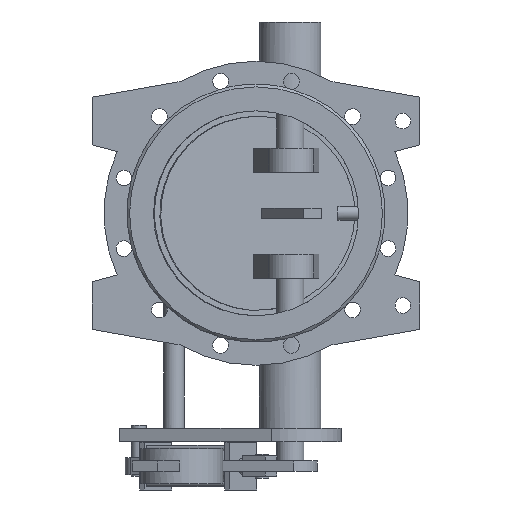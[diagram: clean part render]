
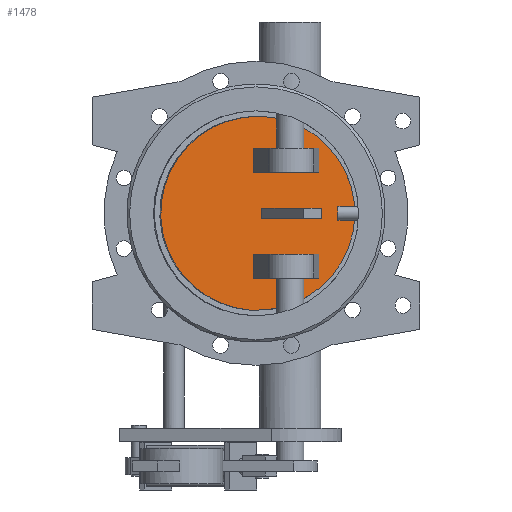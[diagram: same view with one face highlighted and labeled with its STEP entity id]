
A CAD part, front view. The second image highlights one B-rep face of the part: STEP entity #1478.
In plain terms, the highlighted planar face has unit normal (0.131, -0.991, 0).
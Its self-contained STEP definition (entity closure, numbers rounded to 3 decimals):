
#1478=ADVANCED_FACE('',(#3068,#3070,#3072,#3074),#3076,.T.);
#3068=FACE_BOUND('',#3069,.T.);
#3069=EDGE_LOOP('',(#4134));
#3070=FACE_BOUND('',#3071,.T.);
#3071=EDGE_LOOP('',(#4135,#4136,#4137,#4138));
#3072=FACE_BOUND('',#3073,.T.);
#3073=EDGE_LOOP('',(#4139,#4140,#4141,#4142));
#3074=FACE_BOUND('',#3075,.T.);
#3075=EDGE_LOOP('',(#4143,#4144,#4145,#4146));
#3076=PLANE('',#3077);
#3077=AXIS2_PLACEMENT_3D('',#3078,#3079,#3080);
#3078=CARTESIAN_POINT('',(-1.272,9.66,0.));
#3079=DIRECTION('',(0.131,-0.991,0.));
#3080=DIRECTION('',(0.,0.,-1.));
#4134=ORIENTED_EDGE('',*,*,#4619,.T.);
#4135=ORIENTED_EDGE('',*,*,#4621,.F.);
#4136=ORIENTED_EDGE('',*,*,#4622,.F.);
#4137=ORIENTED_EDGE('',*,*,#4623,.F.);
#4138=ORIENTED_EDGE('',*,*,#4624,.F.);
#4139=ORIENTED_EDGE('',*,*,#4625,.F.);
#4140=ORIENTED_EDGE('',*,*,#4626,.F.);
#4141=ORIENTED_EDGE('',*,*,#4627,.F.);
#4142=ORIENTED_EDGE('',*,*,#4628,.F.);
#4143=ORIENTED_EDGE('',*,*,#4629,.F.);
#4144=ORIENTED_EDGE('',*,*,#4630,.F.);
#4145=ORIENTED_EDGE('',*,*,#4631,.F.);
#4146=ORIENTED_EDGE('',*,*,#4632,.F.);
#4619=EDGE_CURVE('',#5372,#5372,#5373,.T.);
#4621=EDGE_CURVE('',#5376,#5377,#5378,.T.);
#4622=EDGE_CURVE('',#5379,#5376,#5380,.F.);
#4623=EDGE_CURVE('',#5381,#5379,#5382,.T.);
#4624=EDGE_CURVE('',#5377,#5381,#5383,.T.);
#4625=EDGE_CURVE('',#5384,#5385,#5386,.F.);
#4626=EDGE_CURVE('',#5387,#5384,#5388,.T.);
#4627=EDGE_CURVE('',#5389,#5387,#5390,.T.);
#4628=EDGE_CURVE('',#5385,#5389,#5391,.T.);
#4629=EDGE_CURVE('',#5392,#5393,#5394,.T.);
#4630=EDGE_CURVE('',#5395,#5392,#5396,.F.);
#4631=EDGE_CURVE('',#5397,#5395,#5398,.F.);
#4632=EDGE_CURVE('',#5393,#5397,#5399,.F.);
#5372=VERTEX_POINT('',#9906);
#5373=B_SPLINE_CURVE_WITH_KNOTS('',3,
(#9907,#9908,#9909,#9910,#9911,#9912,#9913,#9914,#9915,#9916,#9917,#9918,#9919,#9920,
#9921,#9922,#9923,#9924,#9925,#9926,#9927,#9928,#9929,#9930,#9931,#9932,#9933,#9934,
#9935,#9936,#9937,#9938,#9939,#9940,#9941,#9942,#9943,#9944,#9945,#9946,#9947,#9948,
#9949,#9950,#9951,#9952,#9953,#9954,#9955,#9956,#9957),
.UNSPECIFIED.,.T.,.F.,
(4,1,1,1,1,1,1,1,1,1,1,1,1,1,1,1,1,1,1,1,1,1,1,1,1,1,1,1,1,1,1,1,1,1,1,1,1,1,1,1,
1,1,1,1,1,1,1,1,4),
(0.,0.021,0.042,0.063,0.084,
0.105,0.126,0.147,0.168,0.189,
0.21,0.232,0.253,0.274,0.295,
0.316,0.337,0.358,0.379,0.4,
0.421,0.442,0.463,0.484,0.505,
0.526,0.548,0.569,0.59,0.611,
0.632,0.653,0.674,0.695,0.716,
0.737,0.758,0.779,0.8,0.822,
0.843,0.864,0.885,0.906,0.927,
0.948,0.969,0.986,1.),
.UNSPECIFIED.);
#5376=VERTEX_POINT('',#10010);
#5377=VERTEX_POINT('',#10011);
#5378=LINE('',#10012,#10013);
#5379=VERTEX_POINT('',#10015);
#5380=LINE('',#10016,#10017);
#5381=VERTEX_POINT('',#10019);
#5382=LINE('',#10020,#10021);
#5383=LINE('',#10023,#10024);
#5384=VERTEX_POINT('',#10026);
#5385=VERTEX_POINT('',#10027);
#5386=LINE('',#10028,#10029);
#5387=VERTEX_POINT('',#10031);
#5388=LINE('',#10032,#10033);
#5389=VERTEX_POINT('',#10035);
#5390=LINE('',#10036,#10037);
#5391=LINE('',#10039,#10040);
#5392=VERTEX_POINT('',#10042);
#5393=VERTEX_POINT('',#10043);
#5394=LINE('',#10044,#10045);
#5395=VERTEX_POINT('',#10047);
#5396=LINE('',#10048,#10049);
#5397=VERTEX_POINT('',#10051);
#5398=LINE('',#10052,#10053);
#5399=LINE('',#10055,#10056);
#9906=CARTESIAN_POINT('',(2.611,10.171,142.));
#9907=CARTESIAN_POINT('',(2.611,10.171,142.));
#9908=CARTESIAN_POINT('',(-3.625,9.35,142.));
#9909=CARTESIAN_POINT('',(-16.111,7.706,141.177));
#9910=CARTESIAN_POINT('',(-34.541,5.28,137.488));
#9911=CARTESIAN_POINT('',(-52.351,2.935,131.393));
#9912=CARTESIAN_POINT('',(-69.215,0.715,122.996));
#9913=CARTESIAN_POINT('',(-84.823,-1.34,112.449));
#9914=CARTESIAN_POINT('',(-98.906,-3.194,99.932));
#9915=CARTESIAN_POINT('',(-111.215,-4.814,85.665));
#9916=CARTESIAN_POINT('',(-121.534,-6.173,69.895));
#9917=CARTESIAN_POINT('',(-129.68,-7.245,52.898));
#9918=CARTESIAN_POINT('',(-135.511,-8.013,34.972));
#9919=CARTESIAN_POINT('',(-138.922,-8.462,16.433));
#9920=CARTESIAN_POINT('',(-139.854,-8.585,-2.395));
#9921=CARTESIAN_POINT('',(-138.29,-8.379,-21.179));
#9922=CARTESIAN_POINT('',(-134.258,-7.848,-39.59));
#9923=CARTESIAN_POINT('',(-127.83,-7.002,-57.305));
#9924=CARTESIAN_POINT('',(-119.12,-5.855,-74.014));
#9925=CARTESIAN_POINT('',(-108.282,-4.428,-89.424));
#9926=CARTESIAN_POINT('',(-95.507,-2.746,-103.267));
#9927=CARTESIAN_POINT('',(-81.02,-0.839,-115.303));
#9928=CARTESIAN_POINT('',(-65.072,1.261,-125.321));
#9929=CARTESIAN_POINT('',(-47.944,3.516,-133.149));
#9930=CARTESIAN_POINT('',(-29.933,5.887,-138.65));
#9931=CARTESIAN_POINT('',(-11.355,8.332,-141.729));
#9932=CARTESIAN_POINT('',(7.467,10.811,-142.332));
#9933=CARTESIAN_POINT('',(26.206,13.277,-140.448));
#9934=CARTESIAN_POINT('',(44.533,15.69,-136.111));
#9935=CARTESIAN_POINT('',(62.13,18.007,-129.394));
#9936=CARTESIAN_POINT('',(78.689,20.187,-120.414));
#9937=CARTESIAN_POINT('',(93.921,22.192,-109.327));
#9938=CARTESIAN_POINT('',(107.558,23.988,-96.326));
#9939=CARTESIAN_POINT('',(119.362,25.542,-81.636));
#9940=CARTESIAN_POINT('',(129.123,26.827,-65.514));
#9941=CARTESIAN_POINT('',(136.671,27.82,-48.243));
#9942=CARTESIAN_POINT('',(141.871,28.505,-30.124));
#9943=CARTESIAN_POINT('',(144.632,28.869,-11.477));
#9944=CARTESIAN_POINT('',(144.904,28.904,7.372));
#9945=CARTESIAN_POINT('',(142.684,28.612,26.09));
#9946=CARTESIAN_POINT('',(138.01,27.997,44.348));
#9947=CARTESIAN_POINT('',(130.967,27.07,61.827));
#9948=CARTESIAN_POINT('',(121.679,25.847,78.22));
#9949=CARTESIAN_POINT('',(110.31,24.35,93.241));
#9950=CARTESIAN_POINT('',(97.06,22.606,106.63));
#9951=CARTESIAN_POINT('',(82.164,20.645,118.149));
#9952=CARTESIAN_POINT('',(65.902,18.504,127.591));
#9953=CARTESIAN_POINT('',(48.508,16.214,134.824));
#9954=CARTESIAN_POINT('',(31.356,13.956,139.419));
#9955=CARTESIAN_POINT('',(15.935,11.925,141.602));
#9956=CARTESIAN_POINT('',(6.683,10.707,142.));
#9957=CARTESIAN_POINT('',(2.611,10.171,142.));
#10010=CARTESIAN_POINT('',(82.749,20.722,-7.5));
#10011=CARTESIAN_POINT('',(82.749,20.722,7.5));
#10012=CARTESIAN_POINT('',(82.749,20.722,-7.5));
#10013=VECTOR('',#10014,1.);
#10014=DIRECTION('',(0.,0.,1.));
#10015=CARTESIAN_POINT('',(8.391,10.932,-7.5));
#10016=CARTESIAN_POINT('',(82.749,20.722,-7.5));
#10017=VECTOR('',#10018,1.);
#10018=DIRECTION('',(-0.991,-0.131,0.));
#10019=CARTESIAN_POINT('',(8.391,10.932,7.5));
#10020=CARTESIAN_POINT('',(8.391,10.932,7.5));
#10021=VECTOR('',#10022,1.);
#10022=DIRECTION('',(0.,0.,-1.));
#10023=CARTESIAN_POINT('',(82.749,20.722,7.5));
#10024=VECTOR('',#10025,1.);
#10025=DIRECTION('',(-0.991,-0.131,0.));
#10026=CARTESIAN_POINT('',(-4.154,9.281,-95.));
#10027=CARTESIAN_POINT('',(92.142,21.958,-95.));
#10028=CARTESIAN_POINT('',(92.142,21.958,-95.));
#10029=VECTOR('',#10030,1.);
#10030=DIRECTION('',(-0.991,-0.131,0.));
#10031=CARTESIAN_POINT('',(-4.154,9.281,-60.));
#10032=CARTESIAN_POINT('',(-4.154,9.281,-60.));
#10033=VECTOR('',#10034,1.);
#10034=DIRECTION('',(0.,0.,-1.));
#10035=CARTESIAN_POINT('',(92.142,21.958,-60.));
#10036=CARTESIAN_POINT('',(92.142,21.958,-60.));
#10037=VECTOR('',#10038,1.);
#10038=DIRECTION('',(-0.991,-0.131,0.));
#10039=CARTESIAN_POINT('',(92.142,21.958,-95.));
#10040=VECTOR('',#10041,1.);
#10041=DIRECTION('',(0.,0.,1.));
#10042=CARTESIAN_POINT('',(92.142,21.958,95.));
#10043=CARTESIAN_POINT('',(-4.154,9.281,95.));
#10044=CARTESIAN_POINT('',(92.142,21.958,95.));
#10045=VECTOR('',#10046,1.);
#10046=DIRECTION('',(-0.991,-0.131,0.));
#10047=CARTESIAN_POINT('',(92.142,21.958,60.));
#10048=CARTESIAN_POINT('',(92.142,21.958,95.));
#10049=VECTOR('',#10050,1.);
#10050=DIRECTION('',(0.,0.,-1.));
#10051=CARTESIAN_POINT('',(-4.154,9.281,60.));
#10052=CARTESIAN_POINT('',(92.142,21.958,60.));
#10053=VECTOR('',#10054,1.);
#10054=DIRECTION('',(-0.991,-0.131,0.));
#10055=CARTESIAN_POINT('',(-4.154,9.281,60.));
#10056=VECTOR('',#10057,1.);
#10057=DIRECTION('',(0.,0.,1.));
